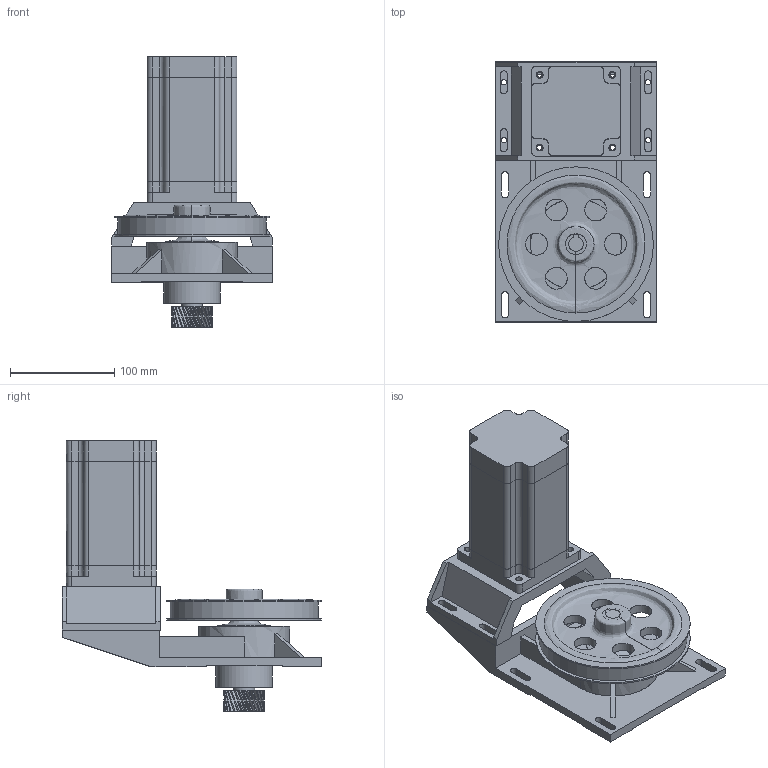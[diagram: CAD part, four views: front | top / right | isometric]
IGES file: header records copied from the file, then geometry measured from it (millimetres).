
Global section: file name: C:\Users\Nikanor\Desktop\pinion and gearbox.igs; native system: Rhinoceros ( May  6 2017 ); preprocessor: Trout Lake IGES 012 May  6 2017; date: 200821.200102; units: millimetre
Bounding box: 155 x 249 x 259.5 mm (x, y, z)
Surface area: 293756.4 mm2 (no closed solid volume)
Topology: 0 solids, 0 shells, 382 faces, 2395 edges, 2340 vertices
Faces by surface type: bspline 382
